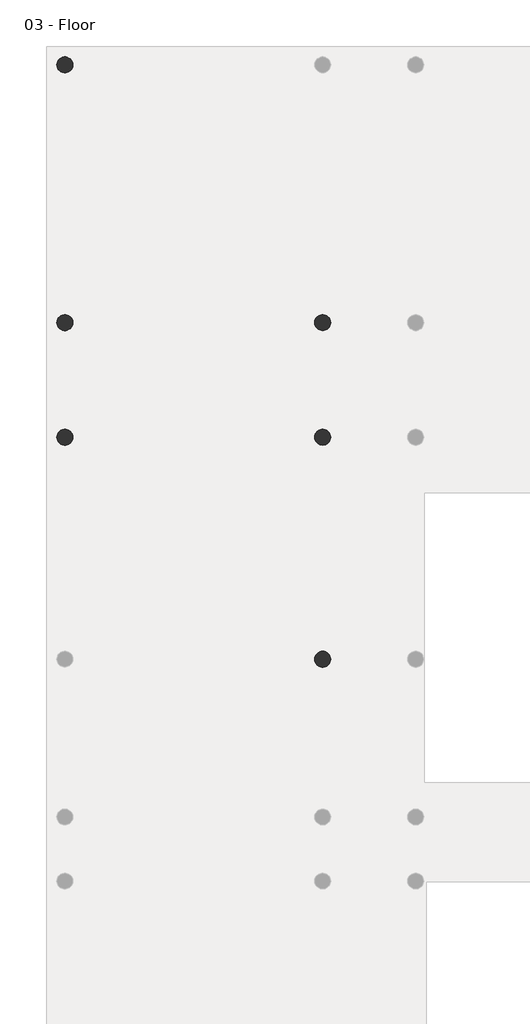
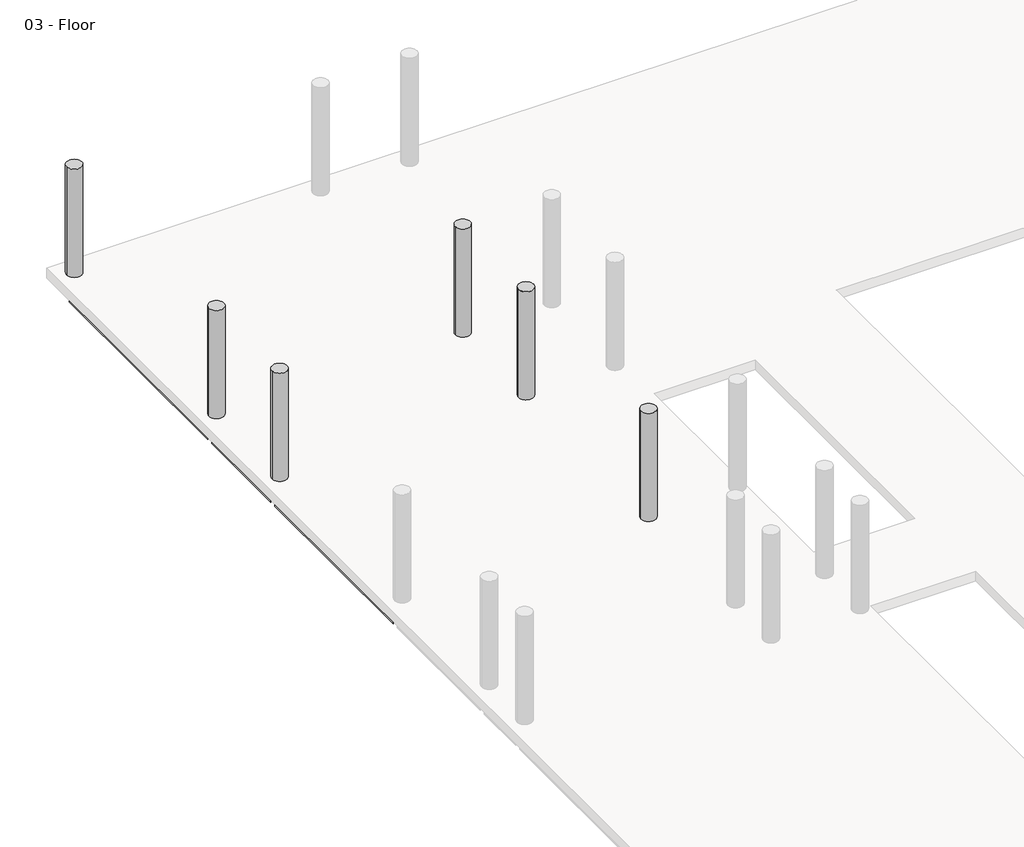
# One storey, part 6 of 8: 16 beams, 6 columns.
"""IFC4 building model written with IfcOpenShell, lengths in millimetres."""

from ifc_helpers import new_model, si_unit, point, frame, frame_2d, origin, place, context, project, spatial, polyline, circle_curve, trimmed, segment, composite_curve, outline, extrude, element, save
from ifc_brep_helpers import plane_surface, revolved_surface, advanced_brep

model = new_model("IFC4")

# Units and contexts
model_context = context("Model", 3, world=origin())
ifc_project = project(units=[si_unit("LENGTHUNIT", "METRE", prefix="MILLI")], contexts=[model_context])

# Site, building, storey
site = spatial("IfcSite", under=ifc_project)
building = spatial("IfcBuilding", under=site)
storey = spatial("IfcBuildingStorey", under=building, Name="03 - Floor", Elevation=7600.0)

# Beams
placement = place(None, origin())
element("IfcBeam", 1, ObjectType="M_Concrete-Rectangular Beam : 400 x 800mm", at=placement, inside=storey, context=model_context, shape_type="AdvancedBrep", body=[
    advanced_brep(
    [(-9401.9994416, 29890.6609793, 6800.0), (-9401.9994416, 22781.6162606, 6800.0), (-9401.9994416, 22781.6162606, 7300.0), (-9401.9994416, 29890.6609793, 7300.0), (-9001.9994416, 29890.6609793, 6800.0), (-9001.9994416, 29793.7386199, 6800.0), (-9001.9994416, 28364.9386199, 6800.0), (-9001.9994416, 27964.9386199, 6800.0), (-9001.9994416, 26536.1386199, 6800.0), (-9001.9994416, 26136.1386199, 6800.0), (-9001.9994416, 24707.3386199, 6800.0), (-9001.9994416, 24307.3386199, 6800.0), (-9001.9994416, 22878.5386199, 6800.0), (-9001.9994416, 22781.6162606, 6800.0), (-9001.9994416, 29890.6609793, 7300.0), (-9001.9994416, 29793.7386199, 7300.0), (-9001.9994416, 28364.9386199, 7300.0), (-9001.9994416, 27964.9386199, 7300.0), (-9001.9994416, 26536.1386199, 7300.0), (-9001.9994416, 26136.1386199, 7300.0), (-9001.9994416, 24707.3386199, 7300.0), (-9001.9994416, 24307.3386199, 7300.0), (-9001.9994416, 22878.5386199, 7300.0), (-9001.9994416, 22781.6162606, 7300.0)],
    [
        (0, 1),
        (1, 2),
        (2, 3),
        (3, 0),
        (0, 4, circle_curve(frame((-9201.9994416, 29993.7386199, 6800.0), z_axis=(0.0, 0.0, 1.0), x_axis=(-1.0, 0.0, 0.0)), 225.0)),
        (4, 5),
        (5, 6),
        (6, 7),
        (7, 8),
        (8, 9),
        (9, 10),
        (10, 11),
        (11, 12),
        (12, 13),
        (13, 1, circle_curve(frame((-9201.9994416, 22678.5386199, 6800.0), z_axis=(0.0, 0.0, 1.0), x_axis=(-1.0, 0.0, 0.0)), 225.0)),
        (4, 14),
        (14, 15),
        (15, 16),
        (16, 17),
        (17, 18),
        (18, 19),
        (19, 20),
        (20, 21),
        (21, 22),
        (22, 23),
        (23, 13),
        (3, 14, circle_curve(frame((-9201.9994416, 29993.7386199, 7300.0), z_axis=(0.0, 0.0, 1.0), x_axis=(-1.0, 0.0, 0.0)), 225.0)),
        (23, 2, circle_curve(frame((-9201.9994416, 22678.5386199, 7300.0), z_axis=(0.0, 0.0, 1.0), x_axis=(-1.0, 0.0, 0.0)), 225.0)),
    ],
    [
        plane_surface(frame((-9401.9994416, 22916.2386199, 7600.0), z_axis=(-1.0, 0.0, 0.0), x_axis=(0.0, 1.0, 0.0))),
        plane_surface(frame((-9401.9994416, 22916.2386199, 6800.0), z_axis=(0.0, 0.0, -1.0), x_axis=(0.0, 1.0, 0.0))),
        plane_surface(frame((-9001.9994416, 22916.2386199, 6800.0), z_axis=(1.0, 0.0, 0.0), x_axis=(0.0, 1.0, 0.0))),
        revolved_surface(polyline([(-9426.9994416, 29993.7386199, 7300.0), (-9426.9994416, 29993.7386199, 6800.0)]), (-9201.9994416, 29993.7386199, 3800.0), (0.0, 0.0, 1.0)),
        revolved_surface(polyline([(-9426.9994416, 22678.5386199, 7300.0), (-9426.9994416, 22678.5386199, 6800.0)]), (-9201.9994416, 22678.5386199, 3800.0), (0.0, 0.0, 1.0)),
        plane_surface(frame((24268.8999097, 30514.0407562, 7300.0), z_axis=(0.0, 0.0, 1.0), x_axis=(0.0, -1.0, 0.0))),
    ],
    [
        (0, [[1, 2, 3, 4]]),
        (1, [[5, 6, 7, 8, 9, 10, 11, 12, 13, 14, 15, -1]]),
        (2, [[-14, -13, -12, -11, -10, -9, -8, -7, -6, 16, 17, 18, 19, 20, 21, 22, 23, 24, 25, 26]]),
        (3, [[-5, -4, 27, -16]]),
        (4, [[-15, -26, 28, -2]]),
        (5, [[-3, -28, -25, -24, -23, -22, -21, -20, -19, -18, -17, -27]]),
    ],
),
])
element("IfcBeam", 2, ObjectType="M_Concrete-Rectangular Beam : 400 x 800mm", at=placement, inside=storey, context=model_context, shape_type="SweptSolid", body=[
    extrude(outline(composite_curve([segment(trimmed(circle_curve(frame_2d((-9201.9994416, 19427.3386199)), 225.0), [point((-9001.9994416, 19530.4162606))], [point((-9401.9994416, 19530.4162606))], True, "CARTESIAN"), True, "CONTINUOUS"), segment(polyline([(-9401.9994416, 19530.4162606), (-9401.9994416, 22575.4609793)]), True, "CONTINUOUS"), segment(trimmed(circle_curve(frame_2d((-9201.9994416, 22678.5386199)), 225.0), [point((-9401.9994416, 22575.4609793))], [point((-9098.921801, 22478.5386199))], True, "CARTESIAN"), True, "CONTINUOUS"), segment(polyline([(-9098.921801, 22478.5386199), (-9001.9994416, 22478.5386199), (-9001.9994416, 19530.4162606)]), True, "CONTINUOUS")], self_intersect=False)), frame((0.0, 0.0, 6800.0), z_axis=(0.0, 0.0, 1.0), x_axis=(1.0, 0.0, 0.0)), (0.0, 0.0, 1.0), 500.0),
])
element("IfcBeam", 3, ObjectType="M_Concrete-Rectangular Beam : 400 x 800mm", at=placement, inside=storey, context=model_context, shape_type="AdvancedBrep", body=[
    advanced_brep(
    [(-9401.9994416, 19324.2609793, 6800.0), (-9401.9994416, 13231.2162606, 6800.0), (-9401.9994416, 13231.2162606, 7300.0), (-9401.9994416, 19324.2609793, 7300.0), (-9001.9994416, 19324.2609793, 6800.0), (-9001.9994416, 13328.1386199, 6800.0), (-9001.9994416, 13231.2162606, 6800.0), (-9001.9994416, 19324.2609793, 7300.0), (-9001.9994416, 13328.1386199, 7300.0), (-9001.9994416, 13231.2162606, 7300.0)],
    [
        (0, 1),
        (1, 2),
        (2, 3),
        (3, 0),
        (0, 4, circle_curve(frame((-9201.9994416, 19427.3386199, 6800.0), z_axis=(0.0, 0.0, 1.0), x_axis=(-1.0, 0.0, 0.0)), 225.0)),
        (4, 5),
        (5, 6),
        (6, 1, circle_curve(frame((-9201.9994416, 13128.1386199, 6800.0), z_axis=(0.0, 0.0, 1.0), x_axis=(-1.0, 0.0, 0.0)), 225.0)),
        (4, 7),
        (7, 8),
        (8, 9),
        (9, 6),
        (3, 7, circle_curve(frame((-9201.9994416, 19427.3386199, 7300.0), z_axis=(0.0, 0.0, 1.0), x_axis=(-1.0, 0.0, 0.0)), 225.0)),
        (9, 2, circle_curve(frame((-9201.9994416, 13128.1386199, 7300.0), z_axis=(0.0, 0.0, 1.0), x_axis=(-1.0, 0.0, 0.0)), 225.0)),
    ],
    [
        plane_surface(frame((-9401.9994416, 13365.8386199, 7200.0), z_axis=(-1.0, 0.0, 0.0), x_axis=(0.0, 0.0, -1.0))),
        plane_surface(frame((-9201.9994416, 13365.8386199, 6800.0), z_axis=(0.0, 0.0, -1.0), x_axis=(1.0, 0.0, 0.0))),
        plane_surface(frame((-9001.9994416, 13365.8386199, 7200.0), z_axis=(1.0, 0.0, 0.0), x_axis=(0.0, 0.0, 1.0))),
        revolved_surface(polyline([(-9426.9994416, 19427.3386199, 7300.0), (-9426.9994416, 19427.3386199, 6800.0)]), (-9201.9994416, 19427.3386199, 3800.0), (0.0, 0.0, 1.0)),
        revolved_surface(polyline([(-9426.9994416, 13128.1386199, 7300.0), (-9426.9994416, 13128.1386199, 6800.0)]), (-9201.9994416, 13128.1386199, 3800.0), (0.0, 0.0, 1.0)),
        plane_surface(frame((24268.8999097, 30514.0407562, 7300.0), z_axis=(0.0, 0.0, 1.0), x_axis=(0.0, -1.0, 0.0))),
    ],
    [
        (0, [[1, 2, 3, 4]]),
        (1, [[5, 6, 7, 8, -1]]),
        (2, [[-7, -6, 9, 10, 11, 12]]),
        (3, [[-5, -4, 13, -9]]),
        (4, [[-8, -12, 14, -2]]),
        (5, [[-3, -14, -11, -10, -13]]),
    ],
),
])
element("IfcBeam", 4, ObjectType="M_Concrete-Rectangular Beam : 400 x 800mm", at=placement, inside=storey, context=model_context, shape_type="SweptSolid", body=[
    extrude(outline(composite_curve([segment(trimmed(circle_curve(frame_2d((754.8005584, 22678.5386199)), 225.0), [point((529.8005584, 22678.5386199))], [point((554.8005584, 22575.4609793))], True, "CARTESIAN"), True, "CONTINUOUS"), segment(polyline([(554.8005584, 22575.4609793), (554.8005584, 22478.5386199), (-1586.7994416, 22478.5386199), (-1586.7994416, 22878.5386199), (554.8005584, 22878.5386199), (554.8005584, 22781.6162606)]), True, "CONTINUOUS"), segment(trimmed(circle_curve(frame_2d((754.8005584, 22678.5386199)), 225.0), [point((554.8005584, 22781.6162606))], [point((529.8005584, 22678.5386199))], True, "CARTESIAN"), True, "CONTINUOUS")], self_intersect=False)), frame((0.0, 0.0, 6800.0), z_axis=(0.0, 0.0, 1.0), x_axis=(1.0, 0.0, 0.0)), (0.0, 0.0, 1.0), 500.0),
])
element("IfcBeam", 5, ObjectType="M_Concrete-Rectangular Beam : 400 x 800mm", at=placement, inside=storey, context=model_context, shape_type="AdvancedBrep", body=[
    advanced_brep(
    [(-2186.7994416, 22878.5386199, 6800.0), (-9001.9994416, 22878.5386199, 6800.0), (-9001.9994416, 22878.5386199, 7300.0), (-2186.7994416, 22878.5386199, 7300.0), (-9001.9994416, 22781.6162606, 6800.0), (-2186.7994416, 22478.5386199, 6800.0), (-3515.5994416, 22478.5386199, 6800.0), (-3915.5994416, 22478.5386199, 6800.0), (-5344.3994416, 22478.5386199, 6800.0), (-5744.3994416, 22478.5386199, 6800.0), (-7173.1994416, 22478.5386199, 6800.0), (-7573.1994416, 22478.5386199, 6800.0), (-9001.9994416, 22478.5386199, 6800.0), (-9098.921801, 22478.5386199, 6800.0), (-8976.9994416, 22678.5386199, 6800.0), (-2186.7994416, 22478.5386199, 7300.0), (-3515.5994416, 22478.5386199, 7300.0), (-3915.5994416, 22478.5386199, 7300.0), (-5344.3994416, 22478.5386199, 7300.0), (-5744.3994416, 22478.5386199, 7300.0), (-7173.1994416, 22478.5386199, 7300.0), (-7573.1994416, 22478.5386199, 7300.0), (-9001.9994416, 22478.5386199, 7300.0), (-9098.921801, 22478.5386199, 7300.0), (-9001.9994416, 22781.6162606, 7300.0), (-8976.9994416, 22678.5386199, 7300.0)],
    [
        (0, 1),
        (1, 2),
        (2, 3),
        (3, 0),
        (4, 1),
        (0, 5),
        (5, 6),
        (6, 7),
        (7, 8),
        (8, 9),
        (9, 10),
        (10, 11),
        (11, 12),
        (12, 13),
        (13, 14, circle_curve(frame((-9201.9994416, 22678.5386199, 6800.0), z_axis=(0.0, 0.0, 1.0), x_axis=(-1.0, 0.0, 0.0)), 225.0)),
        (14, 4, circle_curve(frame((-9201.9994416, 22678.5386199, 6800.0), z_axis=(0.0, 0.0, 1.0), x_axis=(-1.0, 0.0, 0.0)), 225.0)),
        (5, 15),
        (15, 16),
        (16, 17),
        (17, 18),
        (18, 19),
        (19, 20),
        (20, 21),
        (21, 22),
        (22, 23),
        (23, 13),
        (4, 24),
        (24, 2),
        (23, 25, circle_curve(frame((-9201.9994416, 22678.5386199, 7300.0), z_axis=(0.0, 0.0, 1.0), x_axis=(-1.0, 0.0, 0.0)), 225.0)),
        (25, 14),
        (25, 24, circle_curve(frame((-9201.9994416, 22678.5386199, 7300.0), z_axis=(0.0, 0.0, 1.0), x_axis=(-1.0, 0.0, 0.0)), 225.0)),
        (3, 15),
    ],
    [
        plane_surface(frame((-8964.2994416, 22878.5386199, 7600.0), z_axis=(0.0, 1.0, 0.0), x_axis=(1.0, 0.0, 0.0))),
        plane_surface(frame((-8964.2994416, 22878.5386199, 6800.0), z_axis=(0.0, 0.0, -1.0), x_axis=(1.0, 0.0, 0.0))),
        plane_surface(frame((-8964.2994416, 22478.5386199, 6800.0), z_axis=(0.0, -1.0, 0.0), x_axis=(1.0, 0.0, 0.0))),
        plane_surface(frame((-9001.9994416, 22916.2386199, 6800.0), z_axis=(-1.0, 0.0, 0.0), x_axis=(0.0, 1.0, 0.0))),
        revolved_surface(polyline([(-9426.9994416, 22678.5386199, 7300.0), (-9426.9994416, 22678.5386199, 6800.0)]), (-9201.9994416, 22678.5386199, 3800.0), (0.0, 0.0, 1.0)),
        plane_surface(frame((-2186.7994416, 22916.2386199, 7600.0), z_axis=(1.0, 0.0, 0.0), x_axis=(0.0, 1.0, 0.0))),
        plane_surface(frame((24268.8999097, 30514.0407562, 7300.0), z_axis=(0.0, 0.0, 1.0), x_axis=(0.0, -1.0, 0.0))),
    ],
    [
        (0, [[1, 2, 3, 4]]),
        (1, [[5, -1, 6, 7, 8, 9, 10, 11, 12, 13, 14, 15, 16]]),
        (2, [[-14, -13, -12, -11, -10, -9, -8, -7, 17, 18, 19, 20, 21, 22, 23, 24, 25, 26]]),
        (3, [[-5, 27, 28, -2]]),
        (4, [[-15, -26, 29, 30]]),
        (4, [[-16, -30, 31, -27]]),
        (5, [[-6, -4, 32, -17]]),
        (6, [[-3, -28, -31, -29, -25, -24, -23, -22, -21, -20, -19, -18, -32]]),
    ],
),
])
element("IfcBeam", 6, ObjectType="M_Concrete-Rectangular Beam : 400 x 800mm", at=placement, inside=storey, context=model_context, shape_type="SweptSolid", body=[
    extrude(outline(composite_curve([segment(trimmed(circle_curve(frame_2d((754.8005584, 19427.3386199)), 225.0), [point((529.8005584, 19427.3386199))], [point((554.8005584, 19324.2609793))], True, "CARTESIAN"), True, "CONTINUOUS"), segment(polyline([(554.8005584, 19324.2609793), (554.8005584, 19227.3386199), (-1586.7994416, 19227.3386199), (-1586.7994416, 19627.3386199), (554.8005584, 19627.3386199), (554.8005584, 19530.4162606)]), True, "CONTINUOUS"), segment(trimmed(circle_curve(frame_2d((754.8005584, 19427.3386199)), 225.0), [point((554.8005584, 19530.4162606))], [point((529.8005584, 19427.3386199))], True, "CARTESIAN"), True, "CONTINUOUS")], self_intersect=False)), frame((0.0, 0.0, 6800.0), z_axis=(0.0, 0.0, 1.0), x_axis=(1.0, 0.0, 0.0)), (0.0, 0.0, 1.0), 500.0),
])
element("IfcBeam", 7, ObjectType="M_Concrete-Rectangular Beam : 400 x 800mm", at=placement, inside=storey, context=model_context, shape_type="AdvancedBrep", body=[
    advanced_brep(
    [(554.8005584, 13328.1386199, 6800.0), (-1586.7994416, 13328.1386199, 6800.0), (-1586.7994416, 13328.1386199, 7300.0), (554.8005584, 13328.1386199, 7300.0), (554.8005584, 13231.2162606, 6800.0), (529.8005584, 13128.1386199, 6800.0), (651.7229178, 12928.1386199, 6800.0), (554.8005584, 12928.1386199, 6800.0), (-1586.7994416, 12928.1386199, 6800.0), (651.7229178, 12928.1386199, 7300.0), (554.8005584, 12928.1386199, 7300.0), (-1586.7994416, 12928.1386199, 7300.0), (554.8005584, 13231.2162606, 7300.0), (529.8005584, 13128.1386199, 7300.0)],
    [
        (0, 1),
        (1, 2),
        (2, 3),
        (3, 0),
        (0, 4),
        (4, 5, circle_curve(frame((754.8005584, 13128.1386199, 6800.0), z_axis=(0.0, 0.0, 1.0), x_axis=(-1.0, 0.0, 0.0)), 225.0)),
        (5, 6, circle_curve(frame((754.8005584, 13128.1386199, 6800.0), z_axis=(0.0, 0.0, 1.0), x_axis=(-1.0, 0.0, 0.0)), 225.0)),
        (6, 7),
        (7, 8),
        (8, 1),
        (6, 9),
        (9, 10),
        (10, 11),
        (11, 8),
        (3, 12),
        (12, 4),
        (5, 13),
        (13, 9, circle_curve(frame((754.8005584, 13128.1386199, 7300.0), z_axis=(0.0, 0.0, 1.0), x_axis=(-1.0, 0.0, 0.0)), 225.0)),
        (12, 13, circle_curve(frame((754.8005584, 13128.1386199, 7300.0), z_axis=(0.0, 0.0, 1.0), x_axis=(-1.0, 0.0, 0.0)), 225.0)),
        (11, 2),
    ],
    [
        plane_surface(frame((-1649.0994416, 13328.1386199, 7200.0), z_axis=(0.0, 1.0, 0.0), x_axis=(0.0, 0.0, -1.0))),
        plane_surface(frame((-1649.0994416, 13128.1386199, 6800.0), z_axis=(0.0, 0.0, -1.0), x_axis=(0.0, -1.0, 0.0))),
        plane_surface(frame((-1649.0994416, 12928.1386199, 7200.0), z_axis=(0.0, -1.0, 0.0), x_axis=(0.0, 0.0, 1.0))),
        plane_surface(frame((554.8005584, 13365.8386199, 7200.0), z_axis=(1.0, 0.0, 0.0), x_axis=(0.0, 0.0, -1.0))),
        revolved_surface(polyline([(529.8005584, 13128.1386199, 7300.0), (529.8005584, 13128.1386199, 6800.0)]), (754.8005584, 13128.1386199, 3800.0), (0.0, 0.0, 1.0)),
        plane_surface(frame((-1586.7994416, 13365.8386199, 7150.0), z_axis=(-1.0, 0.0, 0.0), x_axis=(0.0, 0.0, 1.0))),
        plane_surface(frame((24268.8999097, 30514.0407562, 7300.0), z_axis=(0.0, 0.0, 1.0), x_axis=(0.0, -1.0, 0.0))),
    ],
    [
        (0, [[1, 2, 3, 4]]),
        (1, [[5, 6, 7, 8, 9, 10, -1]]),
        (2, [[-9, -8, 11, 12, 13, 14]]),
        (3, [[-5, -4, 15, 16]]),
        (4, [[-7, 17, 18, -11]]),
        (4, [[-6, -16, 19, -17]]),
        (5, [[-10, -14, 20, -2]]),
        (6, [[-3, -20, -13, -12, -18, -19, -15]]),
    ],
),
])
element("IfcBeam", 8, ObjectType="M_Concrete-Rectangular Beam : 400 x 800mm", at=placement, inside=storey, context=model_context, shape_type="AdvancedBrep", body=[
    advanced_brep(
    [(-2186.7994416, 13328.1386199, 6800.0), (-3515.5994416, 13328.1386199, 6800.0), (-3915.5994416, 13328.1386199, 6800.0), (-5344.3994416, 13328.1386199, 6800.0), (-5744.3994416, 13328.1386199, 6800.0), (-7173.1994416, 13328.1386199, 6800.0), (-7573.1994416, 13328.1386199, 6800.0), (-9001.9994416, 13328.1386199, 6800.0), (-9001.9994416, 13328.1386199, 7300.0), (-7573.1994416, 13328.1386199, 7300.0), (-7173.1994416, 13328.1386199, 7300.0), (-5744.3994416, 13328.1386199, 7300.0), (-5344.3994416, 13328.1386199, 7300.0), (-3915.5994416, 13328.1386199, 7300.0), (-3515.5994416, 13328.1386199, 7300.0), (-2186.7994416, 13328.1386199, 7300.0), (-9001.9994416, 13231.2162606, 6800.0), (-2186.7994416, 12928.1386199, 6800.0), (-9001.9994416, 12928.1386199, 6800.0), (-9098.921801, 12928.1386199, 6800.0), (-8976.9994416, 13128.1386199, 6800.0), (-2186.7994416, 12928.1386199, 7300.0), (-9001.9994416, 12928.1386199, 7300.0), (-9098.921801, 12928.1386199, 7300.0), (-9001.9994416, 13231.2162606, 7300.0), (-8976.9994416, 13128.1386199, 7300.0)],
    [
        (0, 1),
        (1, 2),
        (2, 3),
        (3, 4),
        (4, 5),
        (5, 6),
        (6, 7),
        (7, 8),
        (8, 9),
        (9, 10),
        (10, 11),
        (11, 12),
        (12, 13),
        (13, 14),
        (14, 15),
        (15, 0),
        (16, 7),
        (0, 17),
        (17, 18),
        (18, 19),
        (19, 20, circle_curve(frame((-9201.9994416, 13128.1386199, 6800.0), z_axis=(0.0, 0.0, 1.0), x_axis=(-1.0, 0.0, 0.0)), 225.0)),
        (20, 16, circle_curve(frame((-9201.9994416, 13128.1386199, 6800.0), z_axis=(0.0, 0.0, 1.0), x_axis=(-1.0, 0.0, 0.0)), 225.0)),
        (17, 21),
        (21, 22),
        (22, 23),
        (23, 19),
        (16, 24),
        (24, 8),
        (23, 25, circle_curve(frame((-9201.9994416, 13128.1386199, 7300.0), z_axis=(0.0, 0.0, 1.0), x_axis=(-1.0, 0.0, 0.0)), 225.0)),
        (25, 20),
        (25, 24, circle_curve(frame((-9201.9994416, 13128.1386199, 7300.0), z_axis=(0.0, 0.0, 1.0), x_axis=(-1.0, 0.0, 0.0)), 225.0)),
        (15, 21),
    ],
    [
        plane_surface(frame((-8964.2994416, 13328.1386199, 7600.0), z_axis=(0.0, 1.0, 0.0), x_axis=(1.0, 0.0, 0.0))),
        plane_surface(frame((-8964.2994416, 13328.1386199, 6800.0), z_axis=(0.0, 0.0, -1.0), x_axis=(1.0, 0.0, 0.0))),
        plane_surface(frame((-8964.2994416, 12928.1386199, 6800.0), z_axis=(0.0, -1.0, 0.0), x_axis=(1.0, 0.0, 0.0))),
        plane_surface(frame((-9001.9994416, 13365.8386199, 7200.0), z_axis=(-1.0, 0.0, 0.0), x_axis=(0.0, 0.0, 1.0))),
        revolved_surface(polyline([(-9426.9994416, 13128.1386199, 7300.0), (-9426.9994416, 13128.1386199, 6800.0)]), (-9201.9994416, 13128.1386199, 3800.0), (0.0, 0.0, 1.0)),
        plane_surface(frame((-2186.7994416, 13352.0677035, 6700.0), z_axis=(1.0, 0.0, 0.0), x_axis=(0.0, -1.0, 0.0))),
        plane_surface(frame((24268.8999097, 30514.0407562, 7300.0), z_axis=(0.0, 0.0, 1.0), x_axis=(0.0, -1.0, 0.0))),
    ],
    [
        (0, [[1, 2, 3, 4, 5, 6, 7, 8, 9, 10, 11, 12, 13, 14, 15, 16]]),
        (1, [[17, -7, -6, -5, -4, -3, -2, -1, 18, 19, 20, 21, 22]]),
        (2, [[-20, -19, 23, 24, 25, 26]]),
        (3, [[-17, 27, 28, -8]]),
        (4, [[-21, -26, 29, 30]]),
        (4, [[-22, -30, 31, -27]]),
        (5, [[-18, -16, 32, -23]]),
        (6, [[-15, -14, -13, -12, -11, -10, -9, -28, -31, -29, -25, -24, -32]]),
    ],
),
])
element("IfcBeam", 9, ObjectType="M_Concrete-Rectangular Beam : 400 x 800mm", at=placement, inside=storey, context=model_context, shape_type="SweptSolid", body=[
    extrude(outline(polyline([(-9001.9994416, 24307.3386199), (-9001.9994416, 24707.3386199), (-2186.7994416, 24707.3386199), (-2186.7994416, 24307.3386199), (-9001.9994416, 24307.3386199)])), frame((0.0, 0.0, 6800.0), z_axis=(0.0, 0.0, 1.0), x_axis=(1.0, 0.0, 0.0)), (0.0, 0.0, 1.0), 500.0),
])
element("IfcBeam", 10, ObjectType="M_Concrete-Rectangular Beam : 400 x 800mm", at=placement, inside=storey, context=model_context, shape_type="SweptSolid", body=[
    extrude(outline(polyline([(-9001.9994416, 26136.1386199), (-9001.9994416, 26536.1386199), (-2186.7994416, 26536.1386199), (-2186.7994416, 26136.1386199), (-9001.9994416, 26136.1386199)])), frame((0.0, 0.0, 6800.0), z_axis=(0.0, 0.0, 1.0), x_axis=(1.0, 0.0, 0.0)), (0.0, 0.0, 1.0), 500.0),
])
element("IfcBeam", 11, ObjectType="M_Concrete-Rectangular Beam : 400 x 800mm", at=placement, inside=storey, context=model_context, shape_type="SweptSolid", body=[
    extrude(outline(polyline([(-3915.5994416, 22478.5386199), (-3515.5994416, 22478.5386199), (-3515.5994416, 13328.1386199), (-3915.5994416, 13328.1386199), (-3915.5994416, 22478.5386199)])), frame((0.0, 0.0, 6800.0), z_axis=(0.0, 0.0, 1.0), x_axis=(1.0, 0.0, 0.0)), (0.0, 0.0, 1.0), 500.0),
])
element("IfcBeam", 12, ObjectType="M_Concrete-Rectangular Beam : 400 x 800mm", at=placement, inside=storey, context=model_context, shape_type="SweptSolid", body=[
    extrude(outline(polyline([(-5744.3994416, 22478.5386199), (-5344.3994416, 22478.5386199), (-5344.3994416, 13328.1386199), (-5744.3994416, 13328.1386199), (-5744.3994416, 22478.5386199)])), frame((0.0, 0.0, 6800.0), z_axis=(0.0, 0.0, 1.0), x_axis=(1.0, 0.0, 0.0)), (0.0, 0.0, 1.0), 500.0),
])
element("IfcBeam", 13, ObjectType="M_Concrete-Rectangular Beam : 400 x 800mm", at=placement, inside=storey, context=model_context, shape_type="SweptSolid", body=[
    extrude(outline(polyline([(-7573.1994416, 22478.5386199), (-7173.1994416, 22478.5386199), (-7173.1994416, 13328.1386199), (-7573.1994416, 13328.1386199), (-7573.1994416, 22478.5386199)])), frame((0.0, 0.0, 6800.0), z_axis=(0.0, 0.0, 1.0), x_axis=(1.0, 0.0, 0.0)), (0.0, 0.0, 1.0), 500.0),
])
element("IfcBeam", 14, ObjectType="M_Concrete-Rectangular Beam : 600 x 900", at=placement, inside=storey, context=model_context, shape_type="AdvancedBrep", body=[
    advanced_brep(
    [(-2186.7994416, 22478.5386199, 6700.0), (-2186.7994416, 19227.3386199, 6700.0), (-2186.7994416, 19227.3386199, 7300.0), (-2186.7994416, 22478.5386199, 7300.0), (-1989.8770822, 19227.3386199, 6700.0), (-1989.8770822, 22478.5386199, 6700.0), (-1783.721801, 22478.5386199, 6700.0), (-1586.7994416, 22478.5386199, 6700.0), (-1586.7994416, 19227.3386199, 6700.0), (-1783.721801, 19227.3386199, 6700.0), (-1661.7994416, 19427.3386199, 6700.0), (-2111.7994416, 19427.3386199, 6700.0), (-1586.7994416, 22478.5386199, 7300.0), (-1586.7994416, 19627.3386199, 7300.0), (-1586.7994416, 19227.3386199, 7300.0), (-1586.7994416, 19227.3386199, 6800.0), (-1783.721801, 19227.3386199, 7300.0), (-2111.7994416, 19427.3386199, 7300.0), (-1989.8770822, 19227.3386199, 7300.0), (-1661.7994416, 19427.3386199, 7300.0), (-1783.721801, 22478.5386199, 7300.0), (-1989.8770822, 22478.5386199, 7300.0)],
    [
        (0, 1),
        (1, 2),
        (2, 3),
        (3, 0),
        (4, 1),
        (0, 5),
        (5, 6, circle_curve(frame((-1886.7994416, 22678.5386199, 6700.0), z_axis=(0.0, 0.0, 1.0), x_axis=(-1.0, 0.0, 0.0)), 225.0)),
        (6, 7),
        (7, 8),
        (8, 9),
        (9, 10, circle_curve(frame((-1886.7994416, 19427.3386199, 6700.0), z_axis=(0.0, 0.0, 1.0), x_axis=(-1.0, 0.0, 0.0)), 225.0)),
        (10, 11, circle_curve(frame((-1886.7994416, 19427.3386199, 6700.0), z_axis=(0.0, 0.0, 1.0), x_axis=(-1.0, 0.0, 0.0)), 225.0)),
        (11, 4, circle_curve(frame((-1886.7994416, 19427.3386199, 6700.0), z_axis=(0.0, 0.0, 1.0), x_axis=(-1.0, 0.0, 0.0)), 225.0)),
        (7, 12),
        (12, 13),
        (13, 14),
        (14, 15),
        (15, 8),
        (14, 16),
        (16, 9),
        (11, 17),
        (17, 18, circle_curve(frame((-1886.7994416, 19427.3386199, 7300.0), z_axis=(0.0, 0.0, 1.0), x_axis=(-1.0, 0.0, 0.0)), 225.0)),
        (18, 4),
        (10, 19),
        (19, 17, circle_curve(frame((-1886.7994416, 19427.3386199, 7300.0), z_axis=(0.0, 0.0, 1.0), x_axis=(-1.0, 0.0, 0.0)), 225.0)),
        (18, 2),
        (16, 19, circle_curve(frame((-1886.7994416, 19427.3386199, 7300.0), z_axis=(0.0, 0.0, 1.0), x_axis=(-1.0, 0.0, 0.0)), 225.0)),
        (6, 20),
        (20, 12),
        (5, 21),
        (21, 20, circle_curve(frame((-1886.7994416, 22678.5386199, 7300.0), z_axis=(0.0, 0.0, 1.0), x_axis=(-1.0, 0.0, 0.0)), 225.0)),
        (3, 21),
    ],
    [
        plane_surface(frame((-2186.7994416, 19665.0386199, 7150.0), z_axis=(-1.0, 0.0, 0.0), x_axis=(0.0, 0.0, -1.0))),
        plane_surface(frame((-1886.7994416, 19665.0386199, 6700.0), z_axis=(0.0, 0.0, -1.0), x_axis=(1.0, 0.0, 0.0))),
        plane_surface(frame((-1586.7994416, 19665.0386199, 7150.0), z_axis=(1.0, 0.0, 0.0), x_axis=(0.0, 0.0, 1.0))),
        plane_surface(frame((-1562.8703581, 19227.3386199, 7600.0), z_axis=(0.0, -1.0, 0.0), x_axis=(-1.0, 0.0, 0.0))),
        revolved_surface(polyline([(-2111.7994416, 19427.3386199, 7300.0), (-2111.7994416, 19427.3386199, 6700.0)]), (-1886.7994416, 19427.3386199, 3800.0), (0.0, 0.0, 1.0)),
        plane_surface(frame((-1649.0994416, 22478.5386199, 7200.0), z_axis=(0.0, 1.0, 0.0), x_axis=(0.0, 0.0, 1.0))),
        revolved_surface(polyline([(-2111.7994416, 22678.5386199, 7300.0), (-2111.7994416, 22678.5386199, 6700.0)]), (-1886.7994416, 22678.5386199, 3800.0), (0.0, 0.0, 1.0)),
        plane_surface(frame((24268.8999097, 30514.0407562, 7300.0), z_axis=(0.0, 0.0, 1.0), x_axis=(0.0, -1.0, 0.0))),
    ],
    [
        (0, [[1, 2, 3, 4]]),
        (1, [[5, -1, 6, 7, 8, 9, 10, 11, 12, 13]]),
        (2, [[-9, 14, 15, 16, 17, 18]]),
        (3, [[-10, -18, -17, 19, 20]]),
        (4, [[-13, 21, 22, 23]]),
        (4, [[-12, 24, 25, -21]]),
        (3, [[-5, -23, 26, -2]]),
        (4, [[-11, -20, 27, -24]]),
        (5, [[-8, 28, 29, -14]]),
        (6, [[-7, 30, 31, -28]]),
        (5, [[-6, -4, 32, -30]]),
        (7, [[-3, -26, -22, -25, -27, -19, -16, -15, -29, -31, -32]]),
    ],
),
])
element("IfcBeam", 15, ObjectType="M_Concrete-Rectangular Beam : 600 x 900", at=placement, inside=storey, context=model_context, shape_type="AdvancedBrep", body=[
    advanced_brep(
    [(-2186.7994416, 19227.3386199, 6700.0), (-2186.7994416, 12928.1386199, 6700.0), (-2186.7994416, 12928.1386199, 6800.0), (-2186.7994416, 12928.1386199, 7300.0), (-2186.7994416, 13328.1386199, 7300.0), (-2186.7994416, 19227.3386199, 7300.0), (-1989.8770822, 19227.3386199, 6700.0), (-1783.721801, 19227.3386199, 6700.0), (-1586.7994416, 19227.3386199, 6700.0), (-1586.7994416, 12928.1386199, 6700.0), (-1783.721801, 12928.1386199, 6700.0), (-1661.7994416, 13128.1386199, 6700.0), (-2111.7994416, 13128.1386199, 6700.0), (-1989.8770822, 12928.1386199, 6700.0), (-1586.7994416, 19227.3386199, 7300.0), (-1586.7994416, 13328.1386199, 7300.0), (-1586.7994416, 12928.1386199, 7300.0), (-1586.7994416, 12928.1386199, 6800.0), (-1783.721801, 12928.1386199, 7300.0), (-1783.721801, 19227.3386199, 7300.0), (-1989.8770822, 19227.3386199, 7300.0), (-2111.7994416, 13128.1386199, 7300.0), (-1989.8770822, 12928.1386199, 7300.0), (-1661.7994416, 13128.1386199, 7300.0)],
    [
        (0, 1),
        (1, 2),
        (2, 3),
        (3, 4),
        (4, 5),
        (5, 0),
        (0, 6),
        (6, 7, circle_curve(frame((-1886.7994416, 19427.3386199, 6700.0), z_axis=(0.0, 0.0, 1.0), x_axis=(-1.0, 0.0, 0.0)), 225.0)),
        (7, 8),
        (8, 9),
        (9, 10),
        (10, 11, circle_curve(frame((-1886.7994416, 13128.1386199, 6700.0), z_axis=(0.0, 0.0, 1.0), x_axis=(-1.0, 0.0, 0.0)), 225.0)),
        (11, 12, circle_curve(frame((-1886.7994416, 13128.1386199, 6700.0), z_axis=(0.0, 0.0, 1.0), x_axis=(-1.0, 0.0, 0.0)), 225.0)),
        (12, 13, circle_curve(frame((-1886.7994416, 13128.1386199, 6700.0), z_axis=(0.0, 0.0, 1.0), x_axis=(-1.0, 0.0, 0.0)), 225.0)),
        (13, 1),
        (8, 14),
        (14, 15),
        (15, 16),
        (16, 17),
        (17, 9),
        (16, 18),
        (18, 10),
        (7, 19),
        (19, 14),
        (6, 20),
        (20, 19, circle_curve(frame((-1886.7994416, 19427.3386199, 7300.0), z_axis=(0.0, 0.0, 1.0), x_axis=(-1.0, 0.0, 0.0)), 225.0)),
        (5, 20),
        (12, 21),
        (21, 22, circle_curve(frame((-1886.7994416, 13128.1386199, 7300.0), z_axis=(0.0, 0.0, 1.0), x_axis=(-1.0, 0.0, 0.0)), 225.0)),
        (22, 13),
        (11, 23),
        (23, 21, circle_curve(frame((-1886.7994416, 13128.1386199, 7300.0), z_axis=(0.0, 0.0, 1.0), x_axis=(-1.0, 0.0, 0.0)), 225.0)),
        (22, 3),
        (18, 23, circle_curve(frame((-1886.7994416, 13128.1386199, 7300.0), z_axis=(0.0, 0.0, 1.0), x_axis=(-1.0, 0.0, 0.0)), 225.0)),
    ],
    [
        plane_surface(frame((-2186.7994416, 13365.8386199, 7150.0), z_axis=(-1.0, 0.0, 0.0), x_axis=(0.0, 0.0, -1.0))),
        plane_surface(frame((-1886.7994416, 13365.8386199, 6700.0), z_axis=(0.0, 0.0, -1.0), x_axis=(1.0, 0.0, 0.0))),
        plane_surface(frame((-1586.7994416, 13365.8386199, 7150.0), z_axis=(1.0, 0.0, 0.0), x_axis=(0.0, 0.0, 1.0))),
        plane_surface(frame((-1562.8703581, 12928.1386199, 7600.0), z_axis=(0.0, -1.0, 0.0), x_axis=(-1.0, 0.0, 0.0))),
        plane_surface(frame((-1649.0994416, 19227.3386199, 7200.0), z_axis=(0.0, 1.0, 0.0), x_axis=(0.0, 0.0, 1.0))),
        revolved_surface(polyline([(-2111.7994416, 19427.3386199, 7300.0), (-2111.7994416, 19427.3386199, 6700.0)]), (-1886.7994416, 19427.3386199, 3800.0), (0.0, 0.0, 1.0)),
        revolved_surface(polyline([(-2111.7994416, 13128.1386199, 7300.0), (-2111.7994416, 13128.1386199, 6700.0)]), (-1886.7994416, 13128.1386199, 3800.0), (0.0, 0.0, 1.0)),
        plane_surface(frame((24268.8999097, 30514.0407562, 7300.0), z_axis=(0.0, 0.0, 1.0), x_axis=(0.0, -1.0, 0.0))),
    ],
    [
        (0, [[1, 2, 3, 4, 5, 6]]),
        (1, [[-1, 7, 8, 9, 10, 11, 12, 13, 14, 15]]),
        (2, [[-10, 16, 17, 18, 19, 20]]),
        (3, [[-11, -20, -19, 21, 22]]),
        (4, [[-9, 23, 24, -16]]),
        (5, [[-8, 25, 26, -23]]),
        (4, [[-7, -6, 27, -25]]),
        (6, [[-14, 28, 29, 30]]),
        (6, [[-13, 31, 32, -28]]),
        (3, [[-15, -30, 33, -3, -2]]),
        (6, [[-12, -22, 34, -31]]),
        (7, [[-5, -4, -33, -29, -32, -34, -21, -18, -17, -24, -26, -27]]),
    ],
),
])
element("IfcBeam", 16, ObjectType="M_Concrete-Rectangular Beam : 600 x 900", at=placement, inside=storey, context=model_context, shape_type="AdvancedBrep", body=[
    advanced_brep(
    [(-2186.7994416, 12928.1386199, 6700.0), (-2186.7994416, 8448.9386199, 6700.0), (-2186.7994416, 8448.9386199, 6800.0), (-2186.7994416, 8448.9386199, 7300.0), (-2186.7994416, 8848.9386199, 7300.0), (-2186.7994416, 12928.1386199, 7300.0), (-1989.8770822, 8448.9386199, 6700.0), (-1989.8770822, 12928.1386199, 6700.0), (-1783.721801, 12928.1386199, 6700.0), (-1586.7994416, 12928.1386199, 6700.0), (-1586.7994416, 8448.9386199, 6700.0), (-1783.721801, 8448.9386199, 6700.0), (-1661.7994416, 8648.9386199, 6700.0), (-2111.7994416, 8648.9386199, 6700.0), (-1586.7994416, 12928.1386199, 7300.0), (-1586.7994416, 8848.9386199, 7300.0), (-1586.7994416, 8448.9386199, 7300.0), (-1586.7994416, 8448.9386199, 6800.0), (-1989.8770822, 8448.9386199, 7300.0), (-1989.8770822, 12928.1386199, 7300.0), (-1783.721801, 12928.1386199, 7300.0), (-1661.7994416, 8648.9386199, 7300.0), (-2111.7994416, 8648.9386199, 7300.0), (-1783.721801, 8448.9386199, 7300.0)],
    [
        (0, 1),
        (1, 2),
        (2, 3),
        (3, 4),
        (4, 5),
        (5, 0),
        (6, 1),
        (0, 7),
        (7, 8, circle_curve(frame((-1886.7994416, 13128.1386199, 6700.0), z_axis=(0.0, 0.0, 1.0), x_axis=(-1.0, 0.0, 0.0)), 225.0)),
        (8, 9),
        (9, 10),
        (10, 11),
        (11, 12, circle_curve(frame((-1886.7994416, 8648.9386199, 6700.0), z_axis=(0.0, 0.0, 1.0), x_axis=(1.0, 0.0, 0.0)), 225.0)),
        (12, 13, circle_curve(frame((-1886.7994416, 8648.9386199, 6700.0), z_axis=(0.0, 0.0, 1.0), x_axis=(1.0, 0.0, 0.0)), 225.0)),
        (13, 6, circle_curve(frame((-1886.7994416, 8648.9386199, 6700.0), z_axis=(0.0, 0.0, 1.0), x_axis=(1.0, 0.0, 0.0)), 225.0)),
        (9, 14),
        (14, 15),
        (15, 16),
        (16, 17),
        (17, 10),
        (6, 18),
        (18, 3),
        (7, 19),
        (19, 20, circle_curve(frame((-1886.7994416, 13128.1386199, 7300.0), z_axis=(0.0, 0.0, 1.0), x_axis=(-1.0, 0.0, 0.0)), 225.0)),
        (20, 8),
        (20, 14),
        (12, 21),
        (21, 22, circle_curve(frame((-1886.7994416, 8648.9386199, 7300.0), z_axis=(0.0, 0.0, 1.0), x_axis=(1.0, 0.0, 0.0)), 225.0)),
        (22, 13),
        (22, 18, circle_curve(frame((-1886.7994416, 8648.9386199, 7300.0), z_axis=(0.0, 0.0, 1.0), x_axis=(1.0, 0.0, 0.0)), 225.0)),
        (16, 23),
        (23, 11),
        (23, 21, circle_curve(frame((-1886.7994416, 8648.9386199, 7300.0), z_axis=(0.0, 0.0, 1.0), x_axis=(1.0, 0.0, 0.0)), 225.0)),
        (5, 19),
    ],
    [
        plane_surface(frame((-2186.7994416, 8886.6386199, 7150.0), z_axis=(-1.0, 0.0, 0.0), x_axis=(0.0, 0.0, -1.0))),
        plane_surface(frame((-1886.7994416, 8886.6386199, 6700.0), z_axis=(0.0, 0.0, -1.0), x_axis=(1.0, 0.0, 0.0))),
        plane_surface(frame((-1586.7994416, 8886.6386199, 7150.0), z_axis=(1.0, 0.0, 0.0), x_axis=(0.0, 0.0, 1.0))),
        plane_surface(frame((-2210.7285251, 8448.9386199, 6800.0), z_axis=(0.0, -1.0, 0.0), x_axis=(1.0, 0.0, 0.0))),
        revolved_surface(polyline([(-2111.7994416, 13128.1386199, 7300.0), (-2111.7994416, 13128.1386199, 6700.0)]), (-1886.7994416, 13128.1386199, 3800.0), (0.0, 0.0, 1.0)),
        plane_surface(frame((-1649.0994416, 12928.1386199, 7200.0), z_axis=(0.0, 1.0, 0.0), x_axis=(0.0, 0.0, 1.0))),
        revolved_surface(polyline([(-1661.7994416, 8648.9386199, 7300.0), (-1661.7994416, 8648.9386199, 6700.0)]), (-1886.7994416, 8648.9386199, 3800.0), (0.0, 0.0, 1.0)),
        plane_surface(frame((24268.8999097, 30514.0407562, 7300.0), z_axis=(0.0, 0.0, 1.0), x_axis=(0.0, -1.0, 0.0))),
    ],
    [
        (0, [[1, 2, 3, 4, 5, 6]]),
        (1, [[7, -1, 8, 9, 10, 11, 12, 13, 14, 15]]),
        (2, [[-11, 16, 17, 18, 19, 20]]),
        (3, [[-7, 21, 22, -3, -2]]),
        (4, [[-9, 23, 24, 25]]),
        (5, [[-10, -25, 26, -16]]),
        (6, [[-14, 27, 28, 29]]),
        (6, [[-15, -29, 30, -21]]),
        (3, [[-12, -20, -19, 31, 32]]),
        (6, [[-13, -32, 33, -27]]),
        (5, [[-8, -6, 34, -23]]),
        (7, [[-5, -4, -22, -30, -28, -33, -31, -18, -17, -26, -24, -34]]),
    ],
),
])

# Columns
element("IfcColumn", 17, ObjectType="M_Concrete-Round-Column : 450mm", at=placement, inside=storey, context=model_context, shape_type="SweptSolid", body=[
    extrude(outline(composite_curve([segment(trimmed(circle_curve(frame_2d((-9201.9994416, 29993.7386199)), 225.0), [point((-8976.9994416, 29993.7386199))], [point((-9426.9994416, 29993.7386199))], False, "CARTESIAN"), True, "CONTINUOUS"), segment(trimmed(circle_curve(frame_2d((-9201.9994416, 29993.7386199)), 225.0), [point((-9426.9994416, 29993.7386199))], [point((-8976.9994416, 29993.7386199))], False, "CARTESIAN"), True, "CONTINUOUS")], self_intersect=False)), frame((0.0, 0.0, 7600.0), z_axis=(0.0, 0.0, 1.0), x_axis=(1.0, 0.0, 0.0)), (0.0, 0.0, 1.0), 3400.0),
])
element("IfcColumn", 18, ObjectType="M_Concrete-Round-Column : 450mm", at=placement, inside=storey, context=model_context, shape_type="SweptSolid", body=[
    extrude(outline(composite_curve([segment(trimmed(circle_curve(frame_2d((-9201.9994416, 22678.5386199)), 225.0), [point((-8976.9994416, 22678.5386199))], [point((-9426.9994416, 22678.5386199))], False, "CARTESIAN"), True, "CONTINUOUS"), segment(trimmed(circle_curve(frame_2d((-9201.9994416, 22678.5386199)), 225.0), [point((-9426.9994416, 22678.5386199))], [point((-8976.9994416, 22678.5386199))], False, "CARTESIAN"), True, "CONTINUOUS")], self_intersect=False)), frame((0.0, 0.0, 7600.0), z_axis=(0.0, 0.0, 1.0), x_axis=(1.0, 0.0, 0.0)), (0.0, 0.0, 1.0), 3400.0),
])
element("IfcColumn", 19, ObjectType="M_Concrete-Round-Column : 450mm", at=placement, inside=storey, context=model_context, shape_type="SweptSolid", body=[
    extrude(outline(composite_curve([segment(trimmed(circle_curve(frame_2d((-9201.9994416, 19427.3386199)), 225.0), [point((-8976.9994416, 19427.3386199))], [point((-9426.9994416, 19427.3386199))], False, "CARTESIAN"), True, "CONTINUOUS"), segment(trimmed(circle_curve(frame_2d((-9201.9994416, 19427.3386199)), 225.0), [point((-9426.9994416, 19427.3386199))], [point((-8976.9994416, 19427.3386199))], False, "CARTESIAN"), True, "CONTINUOUS")], self_intersect=False)), frame((0.0, 0.0, 7600.0), z_axis=(0.0, 0.0, 1.0), x_axis=(1.0, 0.0, 0.0)), (0.0, 0.0, 1.0), 3400.0),
])
element("IfcColumn", 20, ObjectType="M_Concrete-Round-Column : 450mm", at=placement, inside=storey, context=model_context, shape_type="SweptSolid", body=[
    extrude(outline(composite_curve([segment(trimmed(circle_curve(frame_2d((-1886.7994416, 22678.5386199)), 225.0), [point((-1661.7994416, 22678.5386199))], [point((-2111.7994416, 22678.5386199))], False, "CARTESIAN"), True, "CONTINUOUS"), segment(trimmed(circle_curve(frame_2d((-1886.7994416, 22678.5386199)), 225.0), [point((-2111.7994416, 22678.5386199))], [point((-1661.7994416, 22678.5386199))], False, "CARTESIAN"), True, "CONTINUOUS")], self_intersect=False)), frame((0.0, 0.0, 7600.0), z_axis=(0.0, 0.0, 1.0), x_axis=(1.0, 0.0, 0.0)), (0.0, 0.0, 1.0), 3400.0),
])
element("IfcColumn", 21, ObjectType="M_Concrete-Round-Column : 450mm", at=placement, inside=storey, context=model_context, shape_type="SweptSolid", body=[
    extrude(outline(composite_curve([segment(trimmed(circle_curve(frame_2d((-1886.7994416, 19427.3386199)), 225.0), [point((-1661.7994416, 19427.3386199))], [point((-2111.7994416, 19427.3386199))], False, "CARTESIAN"), True, "CONTINUOUS"), segment(trimmed(circle_curve(frame_2d((-1886.7994416, 19427.3386199)), 225.0), [point((-2111.7994416, 19427.3386199))], [point((-1661.7994416, 19427.3386199))], False, "CARTESIAN"), True, "CONTINUOUS")], self_intersect=False)), frame((0.0, 0.0, 7600.0), z_axis=(0.0, 0.0, 1.0), x_axis=(1.0, 0.0, 0.0)), (0.0, 0.0, 1.0), 3400.0),
])
element("IfcColumn", 22, ObjectType="M_Concrete-Round-Column : 450mm", at=placement, inside=storey, context=model_context, shape_type="SweptSolid", body=[
    extrude(outline(composite_curve([segment(trimmed(circle_curve(frame_2d((-1886.7994416, 13128.1386199)), 225.0), [point((-1661.7994416, 13128.1386199))], [point((-2111.7994416, 13128.1386199))], False, "CARTESIAN"), True, "CONTINUOUS"), segment(trimmed(circle_curve(frame_2d((-1886.7994416, 13128.1386199)), 225.0), [point((-2111.7994416, 13128.1386199))], [point((-1661.7994416, 13128.1386199))], False, "CARTESIAN"), True, "CONTINUOUS")], self_intersect=False)), frame((0.0, 0.0, 7600.0), z_axis=(0.0, 0.0, 1.0), x_axis=(1.0, 0.0, 0.0)), (0.0, 0.0, 1.0), 3400.0),
])

save(model, "model.ifc")
